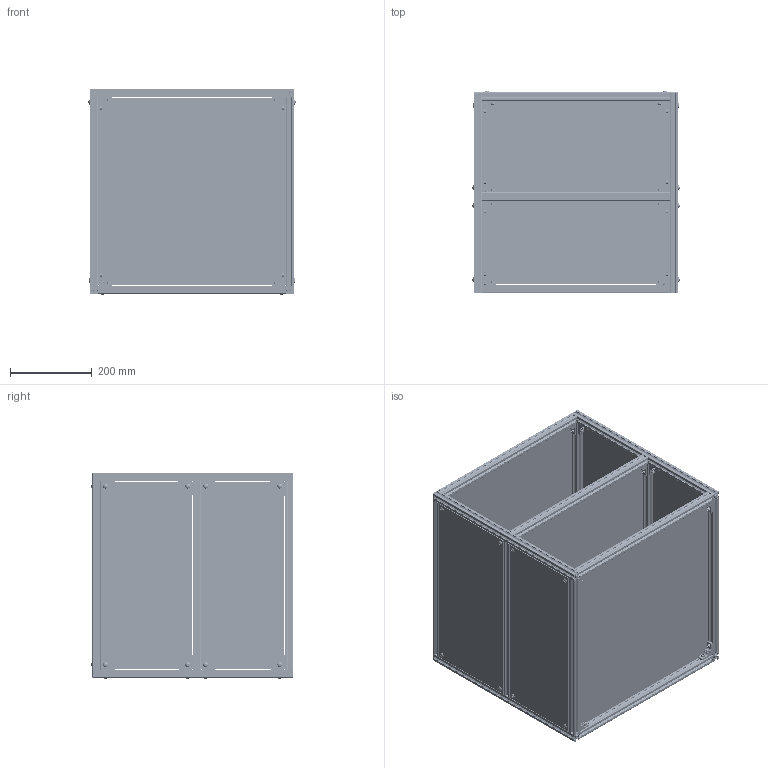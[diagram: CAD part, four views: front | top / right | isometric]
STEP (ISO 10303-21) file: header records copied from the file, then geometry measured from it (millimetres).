
FILE_DESCRIPTION(('CAx-IF Rec.Pracs.---Model Styling and Organization---1.2---2011-12-15','CAx-IF Rec.Pracs.---Geometric and Assembly Validation Properties---4.1---2014-06-16','CAx-IF Rec.Pracs.---PMI Polyline Presentation---2.0---2013-05-24'),'2;1');
FILE_NAME('Newly created project.stp','2025-06-13T07:15:38+07:00',(''),(''),'STEP Interface 2017 Sp2 by CT CoreTechnologie','3D_Kernel_IO2017 Sp2 by CT CoreTechnologie','');
FILE_SCHEMA(('AP203_CONFIGURATION_CONTROLLED_3D_DESIGN_OF_MECHANICAL_PARTS_AND_ASSEMBLIES_MIM_LF'));
Length unit declared in the file: millimetre
Products named in the file (47): Newly created project; LCF6-2020-487; LCF6-2020-460; LBLTS3535-14-C-SET(1); LBLTS3535-14; LNSN6-20-5; E-GSCB5-10; LBLTS3535-14-C-SET(2); LBLTS3535-14-C-SET(3); LBLTS3535-14-C-SET(4); LBLTS3535-14-C-SET(5); LBLTS3535-14-C-SET(6); LBLTS3535-14-C-SET(7); LBLTS3535-14-C-SET(8); LBLTS3535-14-C-SET(9); LBLTS3535-14-C-SET(10); LBLTS3535-14-C-SET(11); LBLTS3535-14-C-SET(12); LBLTS3535-14-C-SET(13); LBLTS3535-14-C-SET(14); LBLTS3535-14-C-SET(15); LBLTS3535-14-C-SET(16); LBLTS3535-14-C-SET(17); LBLTS3535-14-C-SET(18); LBLTS3535-14-C-SET(19); LBLTS3535-14-C-SET(20); LBLTS3535-14-C-SET(21); LBLTS3535-14-C-SET(22); LBLTS3535-14-C-SET(23); LBLTS3535-14-C-SET(24); LBLTS3535-14-C-SET(25); LBLTS3535-14-C-SET(26); LBLTS3535-14-C-SET(27); LBLTS3535-14-C-SET(28); LBLTS3535-14-C-SET(29); LBLTS3535-14-C-SET(30); LBLTS3535-14-C-SET(31); LBLTS3535-14-C-SET(32); LBLTS3535-14-C-SET(33); LBLTS3535-14-C-SET(34)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
Assembly tree (281 placements, depth 3):
  Newly created project
    LCF6-2020-487  x4
    LCF6-2020-460  x12
    LBLTS3535-14-C-SET(1)
      LBLTS3535-14
      LNSN6-20-5  x2
      E-GSCB5-10  x2
    LBLTS3535-14-C-SET(2)
      LBLTS3535-14
      LNSN6-20-5  x2
      E-GSCB5-10  x2
    LBLTS3535-14-C-SET(3)
      LBLTS3535-14
      LNSN6-20-5  x2
      E-GSCB5-10  x2
    LBLTS3535-14-C-SET(4)
      LBLTS3535-14
      LNSN6-20-5  x2
      E-GSCB5-10  x2
    LBLTS3535-14-C-SET(5)
      LBLTS3535-14
      LNSN6-20-5  x2
      E-GSCB5-10  x2
    LBLTS3535-14-C-SET(6)
      LBLTS3535-14
      LNSN6-20-5  x2
      E-GSCB5-10  x2
    LBLTS3535-14-C-SET(7)
      LBLTS3535-14
      LNSN6-20-5  x2
      E-GSCB5-10  x2
    LBLTS3535-14-C-SET(8)
      LBLTS3535-14
      LNSN6-20-5  x2
      E-GSCB5-10  x2
    LBLTS3535-14-C-SET(9)
      LBLTS3535-14
      LNSN6-20-5  x2
      E-GSCB5-10  x2
    LBLTS3535-14-C-SET(10)
      LBLTS3535-14
      LNSN6-20-5  x2
      E-GSCB5-10  x2
    LBLTS3535-14-C-SET(11)
      LBLTS3535-14
      LNSN6-20-5  x2
      E-GSCB5-10  x2
    LBLTS3535-14-C-SET(12)
      LBLTS3535-14
      LNSN6-20-5  x2
      E-GSCB5-10  x2
    LBLTS3535-14-C-SET(13)
      LBLTS3535-14
      LNSN6-20-5  x2
      E-GSCB5-10  x2
    LBLTS3535-14-C-SET(14)
      LBLTS3535-14
      LNSN6-20-5  x2
      E-GSCB5-10  x2
    LBLTS3535-14-C-SET(15)
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Bounding box: 506.11 x 493.05 x 503.05 mm (x, y, z)
Volume: 5150695.3 mm3; surface area: 3899085.9 mm2
Topology: 245 solids, 245 shells, 41886 faces, 95576 edges, 54368 vertices
Faces by surface type: plane 41886
Entity records: 49918 total; most frequent: CARTESIAN_POINT 8361, DIRECTION 8175, ORIENTED_EDGE 8054, VECTOR 4027, LINE 4027, EDGE_CURVE 4027, VERTEX_POINT 2260, AXIS2_PLACEMENT_3D 2074
